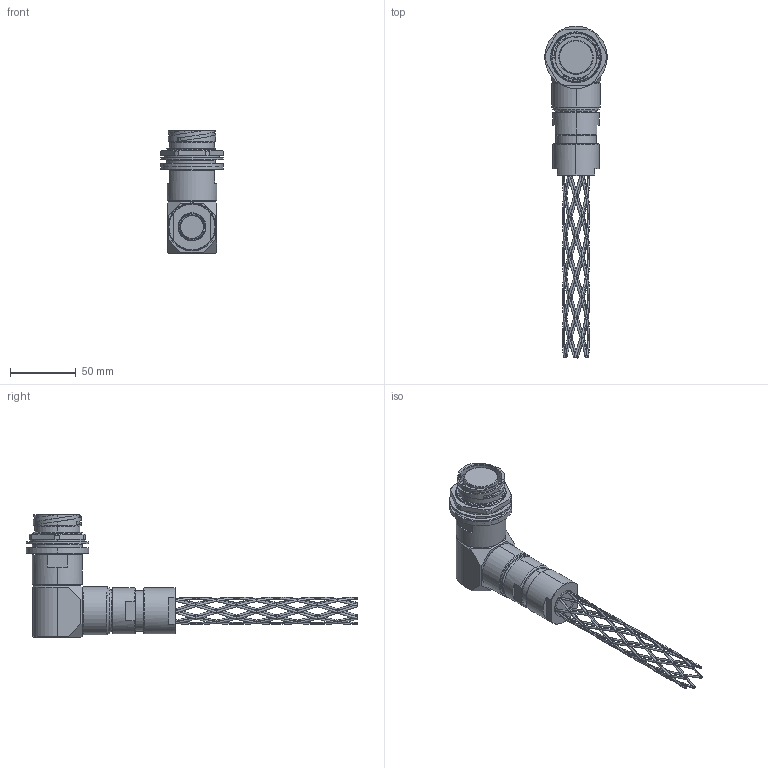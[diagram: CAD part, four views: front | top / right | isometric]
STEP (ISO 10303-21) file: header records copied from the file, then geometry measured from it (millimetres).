
FILE_DESCRIPTION (( 'STEP AP214' ), '1' );
FILE_NAME ('QLINK90-RJBX-21XX-GXXX-RA.STEP', '2025-12-17T15:47:58', ( '' ), ( '' ), 'SwSTEP 2.0', 'SolidWorks 2024', '' );
FILE_SCHEMA (( 'AUTOMOTIVE_DESIGN' ));
Length unit declared in the file: millimetre
Products named in the file (1): QLINK90-RJBX-21XX-GXXX-RA
Bounding box: 47.37 x 251.59 x 93.22 mm (x, y, z)
Volume: 174503.6 mm3; surface area: 43453.8 mm2
Topology: 2 solids, 4 shells, 540 faces, 1484 edges, 865 vertices
Faces by surface type: bspline 272, plane 94, cylinder 93, cone 58, torus 23
Entity records: 132242 total; most frequent: CARTESIAN_POINT 121639, ORIENTED_EDGE 2968, EDGE_CURVE 1484, DIRECTION 1466, VERTEX_POINT 865, AXIS2_PLACEMENT_3D 611, EDGE_LOOP 571, FACE_OUTER_BOUND 540
